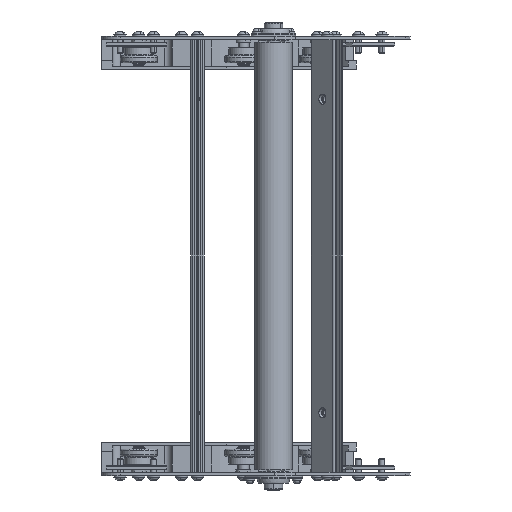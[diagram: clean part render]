
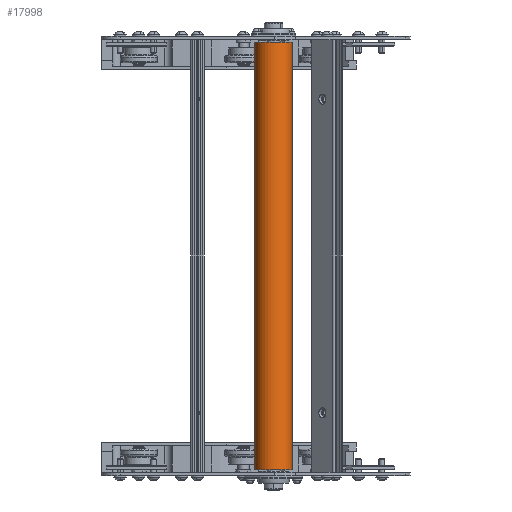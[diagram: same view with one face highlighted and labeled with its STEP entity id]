
A CAD part, front view. The second image highlights one B-rep face of the part: STEP entity #17998.
In plain terms, the highlighted cylindrical face has radius 25 mm (diameter 50 mm), a partial arc.
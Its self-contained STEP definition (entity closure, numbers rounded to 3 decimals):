
#106 = EDGE_CURVE ( 'NONE', #3739, #10483, #1385, .T. ) ;
#772 = CARTESIAN_POINT ( 'NONE',  ( 25., 0., 288.5 ) ) ;
#1142 = EDGE_CURVE ( 'NONE', #9698, #12890, #12261, .T. ) ;
#1214 = VECTOR ( 'NONE', #8321, 1000. ) ;
#1333 = CIRCLE ( 'NONE', #11459, 25. ) ;
#1385 = LINE ( 'NONE', #15837, #1214 ) ;
#1781 = DIRECTION ( 'NONE',  ( 0., 0., 1. ) ) ;
#1858 = ORIENTED_EDGE ( 'NONE', *, *, #7186, .F. ) ;
#2717 = ORIENTED_EDGE ( 'NONE', *, *, #4173, .T. ) ;
#3739 = VERTEX_POINT ( 'NONE', #11662 ) ;
#4173 = EDGE_CURVE ( 'NONE', #10483, #12890, #18985, .T. ) ;
#5413 = DIRECTION ( 'NONE',  ( 0., 0., -1. ) ) ;
#5483 = EDGE_LOOP ( 'NONE', ( #16842, #1858, #14258, #2717 ) ) ;
#6024 = DIRECTION ( 'NONE',  ( -1., 0., 0. ) ) ;
#6199 = CARTESIAN_POINT ( 'NONE',  ( -25., 0., 288.5 ) ) ;
#7186 = EDGE_CURVE ( 'NONE', #3739, #9698, #1333, .T. ) ;
#7242 = DIRECTION ( 'NONE',  ( 0., 0., -1. ) ) ;
#7544 = CYLINDRICAL_SURFACE ( 'NONE', #13508, 25. ) ;
#7597 = FACE_OUTER_BOUND ( 'NONE', #5483, .T. ) ;
#8321 = DIRECTION ( 'NONE',  ( 0., 0., 1. ) ) ;
#9254 = DIRECTION ( 'NONE',  ( 0., 0., 1. ) ) ;
#9317 = DIRECTION ( 'NONE',  ( 1., 0., 0. ) ) ;
#9549 = CARTESIAN_POINT ( 'NONE',  ( 0., 0., 288.5 ) ) ;
#9634 = CARTESIAN_POINT ( 'NONE',  ( 0., 0., -288.5 ) ) ;
#9698 = VERTEX_POINT ( 'NONE', #18973 ) ;
#10483 = VERTEX_POINT ( 'NONE', #772 ) ;
#11459 = AXIS2_PLACEMENT_3D ( 'NONE', #15928, #5413, #6024 ) ;
#11662 = CARTESIAN_POINT ( 'NONE',  ( 25., 0., -288.5 ) ) ;
#12261 = LINE ( 'NONE', #16845, #17990 ) ;
#12890 = VERTEX_POINT ( 'NONE', #6199 ) ;
#13508 = AXIS2_PLACEMENT_3D ( 'NONE', #9634, #9254, #9317 ) ;
#14258 = ORIENTED_EDGE ( 'NONE', *, *, #106, .T. ) ;
#15520 = DIRECTION ( 'NONE',  ( -1., 0., 0. ) ) ;
#15837 = CARTESIAN_POINT ( 'NONE',  ( 25., 0., -288.5 ) ) ;
#15928 = CARTESIAN_POINT ( 'NONE',  ( 0., 0., -288.5 ) ) ;
#16842 = ORIENTED_EDGE ( 'NONE', *, *, #1142, .F. ) ;
#16845 = CARTESIAN_POINT ( 'NONE',  ( -25., 0., -288.5 ) ) ;
#17990 = VECTOR ( 'NONE', #1781, 1000. ) ;
#17998 = ADVANCED_FACE ( 'NONE', ( #7597 ), #7544, .T. ) ;
#18421 = AXIS2_PLACEMENT_3D ( 'NONE', #9549, #7242, #15520 ) ;
#18973 = CARTESIAN_POINT ( 'NONE',  ( -25., 0., -288.5 ) ) ;
#18985 = CIRCLE ( 'NONE', #18421, 25. ) ;
